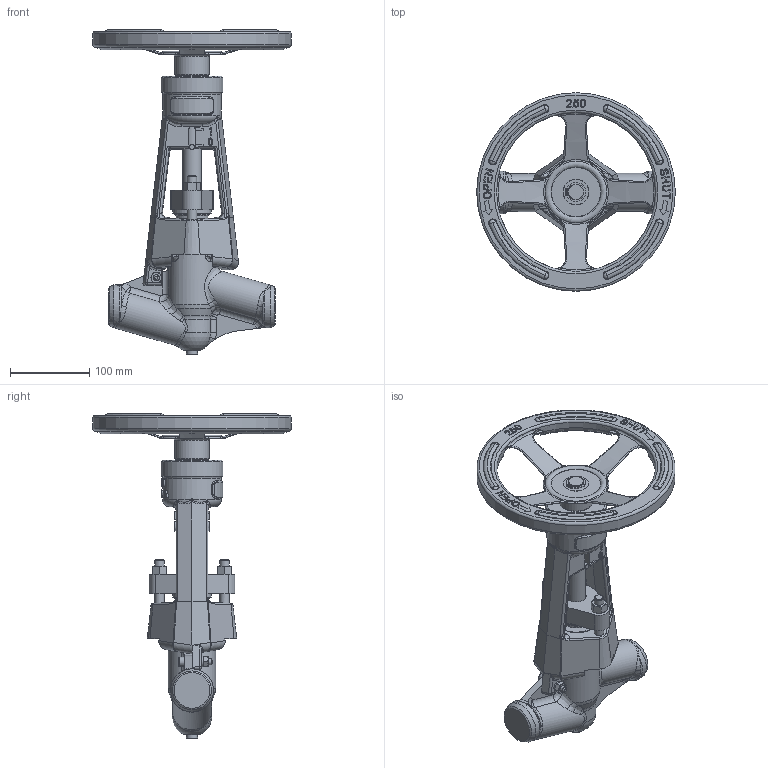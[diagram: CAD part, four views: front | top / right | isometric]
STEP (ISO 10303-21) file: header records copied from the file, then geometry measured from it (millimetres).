
FILE_DESCRIPTION(/* description */ (''),/* implementation_level */ '2;1');
FILE_NAME(/* name */ 'UV526_DN32_40_RK.stp',/* time_stamp */ '2016-06-08T13:32:30+02:00',/* author */ (''),/* organization */ (''),/* preprocessor_version */ 'ST-DEVELOPER v15',/* originating_system */ 'SIEMENS PLM Software NX 8.5',/* authorisation */ '');
FILE_SCHEMA (('AP203_CONFIGURATION_CONTROLLED_3D_DESIGN_OF_MECHANICAL_PARTS_AND_ASSEMBLIES_MIM_LF { 1 0 10303 403 2 1 2}'));
Length unit declared in the file: millimetre
Products named in the file (1): ploc2F4C05CFg3sm
Bounding box: 250 x 250 x 408 mm (x, y, z)
Volume: 1765984.7 mm3; surface area: 300495.2 mm2
Topology: 1 solids, 1 shells, 941 faces, 2375 edges, 1462 vertices
Faces by surface type: plane 301, bspline 194, cylinder 183, cone 95, torus 86, extrusion 77, sphere 5
Full cylindrical faces by diameter (mm): 2 x2, 7 x2, 7.76 x2, 9 x1, 10.579 x2, 11.64 x1, 12 x4, 13 x4, 14 x1, 19 x1, 20 x2, 24 x1, 26 x1, 32 x1, 32.2 x1, 37 x1, 40 x1, 43 x1, 45 x1, 48 x1, 60 x1, 74 x1, 78 x1, 200 x1, 204 x1, 246 x1, 250 x1
Entity records: 35396 total; most frequent: CARTESIAN_POINT 15119, ORIENTED_EDGE 4458, DIRECTION 3658, EDGE_CURVE 2229, AXIS2_PLACEMENT_3D 1457, VERTEX_POINT 1426, EDGE_LOOP 1107, ADVANCED_FACE 940
